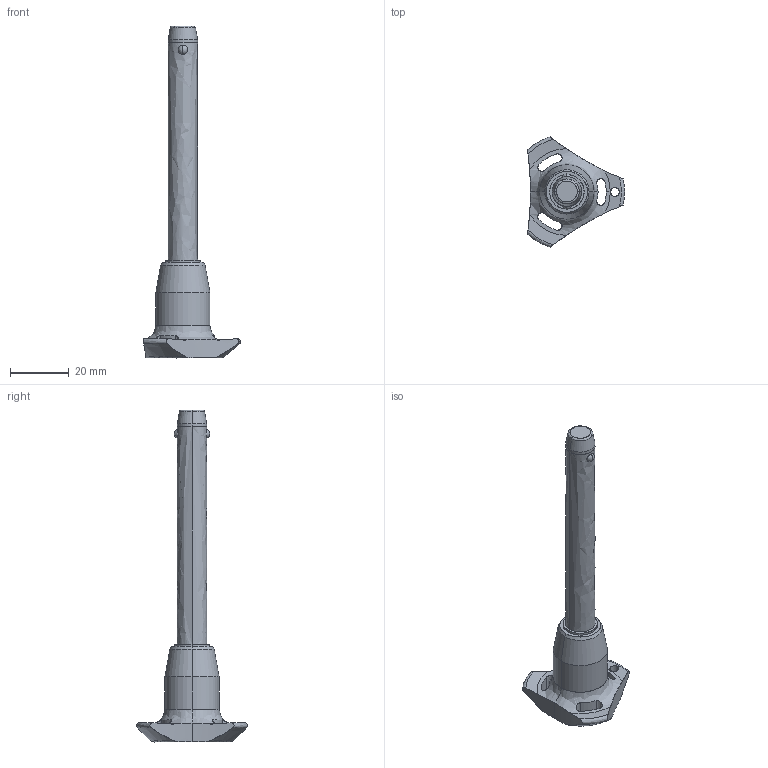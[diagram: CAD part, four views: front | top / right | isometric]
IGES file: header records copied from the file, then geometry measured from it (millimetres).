
Start section: SolidWorks IGES file using analytic representation for surfaces
Global section: file name: C:\Users\ianosborn\Desktop\QR1736_v2\QR1736_v2_20251115_IGES\QR1736.M10-070-T.igs; native system: SolidWorks 2019; preprocessor: SolidWorks 2019; author: IanOsborn; date: 251113.115954; units: millimetre
Bounding box: 33 x 37.51 x 112.9 mm (x, y, z)
Surface area: 6292.5 mm2 (no closed solid volume)
Topology: 0 solids, 0 shells, 68 faces, 1352 edges, 1345 vertices
Faces by surface type: revolution 52, bspline 16
